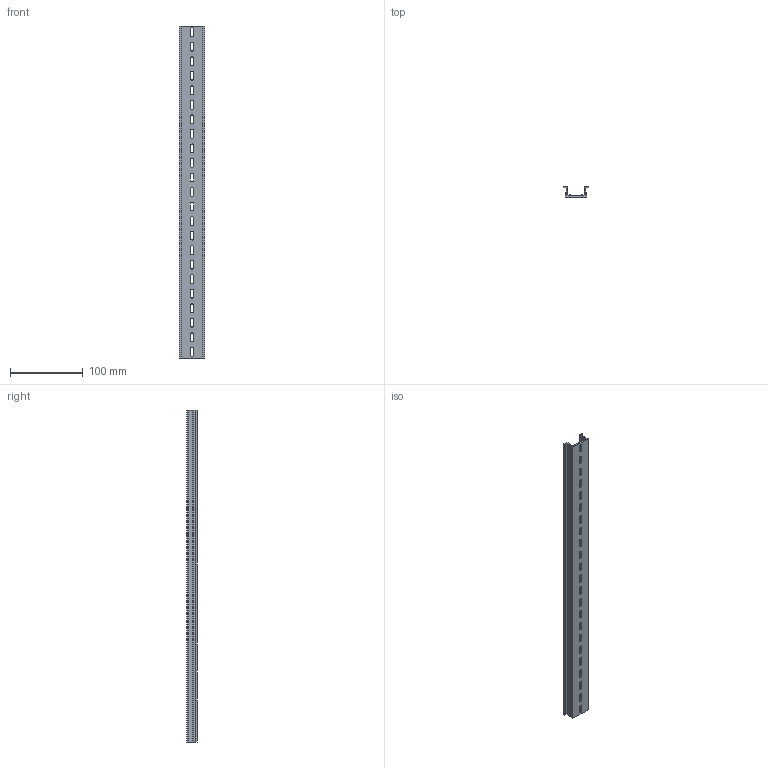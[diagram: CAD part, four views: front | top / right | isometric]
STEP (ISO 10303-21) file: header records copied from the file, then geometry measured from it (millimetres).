
FILE_DESCRIPTION(/* description */ (''),/* implementation_level */ '2;1');
FILE_NAME(/* name */ '22648-(TKB KD-23)HP 3D.stp',/* time_stamp */ '2024-12-05T14:04:38+09:00',/* author */ ('usercadg104'),/* organization */ (''),/* preprocessor_version */ 'ST-DEVELOPER v19.2',/* originating_system */ 'Autodesk Inventor 2023',/* authorisation */ '');
FILE_SCHEMA (('CONFIG_CONTROL_DESIGN'));
Length unit declared in the file: millimetre
Products named in the file (1): TKB KD-3(林)
Bounding box: 35 x 15 x 457 mm (x, y, z)
Volume: 53461.1 mm3; surface area: 61841.2 mm2
Topology: 1 solids, 1 shells, 132 faces, 390 edges, 260 vertices
Faces by surface type: plane 82, cylinder 50
Entity records: 4549 total; most frequent: CARTESIAN_POINT 783, ORIENTED_EDGE 780, DIRECTION 756, EDGE_CURVE 390, LINE 290, VECTOR 290, VERTEX_POINT 260, AXIS2_PLACEMENT_3D 233
